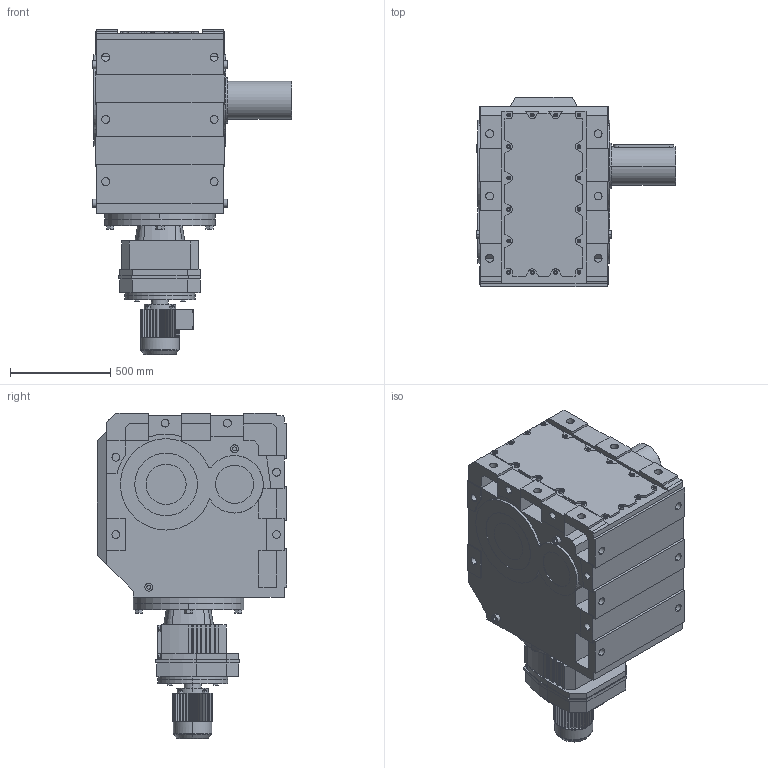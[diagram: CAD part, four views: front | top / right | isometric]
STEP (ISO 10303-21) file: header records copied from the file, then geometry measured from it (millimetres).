
FILE_DESCRIPTION(('Open CASCADE Model'),'2;1');
FILE_NAME('Open CASCADE Shape Model','2021-07-24T16:22:45',('Author'),( 'Open CASCADE'),'Open CASCADE STEP processor 6.3','Open CASCADE 6.3' ,'Unknown');
FILE_SCHEMA(('AUTOMOTIVE_DESIGN_CC2 { 1 2 10303 214 -1 1 5 4 }'));
Length unit declared in the file: millimetre
Products named in the file (5): 1_K187R107DV100M-A; K167‵187_187.step; 萇儂_350-DV100M-295-380-197-166.step; R_187_107.step; す瑩妗陑粣K_187.step
Assembly tree (4 placements, depth 2):
  1_K187R107DV100M-A
    K167‵187_187.step
    萇儂_350-DV100M-295-380-197-166.step
    R_187_107.step
    す瑩妗陑粣K_187.step
Bounding box: 994 x 942 x 1623 mm (x, y, z)
Volume: 568281730.8 mm3; surface area: 7874939.8 mm2
Topology: 4 solids, 4 shells, 1158 faces, 3026 edges, 1979 vertices
Faces by surface type: plane 801, cylinder 337, cone 16, torus 4
Entity records: 76120 total; most frequent: CARTESIAN_POINT 17814, DIRECTION 10228, ORIENTED_EDGE 6048, PCURVE 6048, DEFINITIONAL_REPRESENTATION 6048, LINE 5768, VECTOR 5768, EDGE_CURVE 3024
